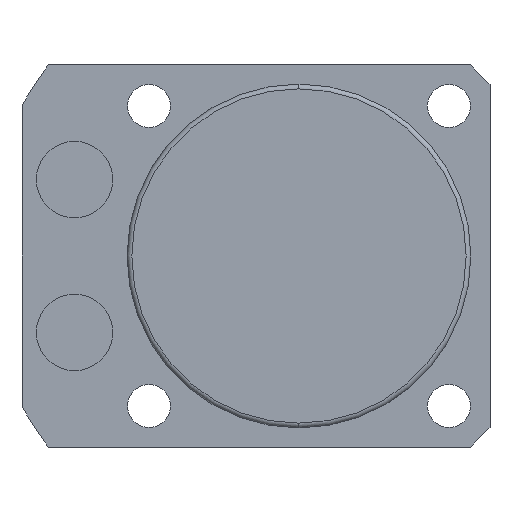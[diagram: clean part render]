
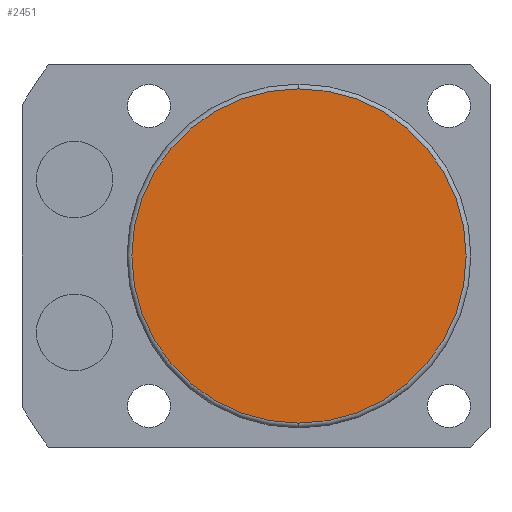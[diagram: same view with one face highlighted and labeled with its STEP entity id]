
A CAD part, front view. The second image highlights one B-rep face of the part: STEP entity #2451.
In plain terms, the highlighted planar face has unit normal (0, -1, 0).
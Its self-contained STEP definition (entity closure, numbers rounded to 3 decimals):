
#21 = ORIENTED_EDGE ( 'NONE', *, *, #2056, .T. ) ;
#158 = AXIS2_PLACEMENT_3D ( 'NONE', #1017, #2464, #371 ) ;
#368 = ORIENTED_EDGE ( 'NONE', *, *, #1902, .T. ) ;
#371 = DIRECTION ( 'NONE',  ( 0., 0., -1. ) ) ;
#615 = PLANE ( 'NONE',  #792 ) ;
#780 = VERTEX_POINT ( 'NONE', #1036 ) ;
#792 = AXIS2_PLACEMENT_3D ( 'NONE', #1417, #2250, #816 ) ;
#816 = DIRECTION ( 'NONE',  ( 0., 0., -1. ) ) ;
#1017 = CARTESIAN_POINT ( 'NONE',  ( 0., -135.5, 0. ) ) ;
#1036 = CARTESIAN_POINT ( 'NONE',  ( 0., -135.5, -17.5 ) ) ;
#1088 = DIRECTION ( 'NONE',  ( 0., 0., -1. ) ) ;
#1100 = AXIS2_PLACEMENT_3D ( 'NONE', #2533, #2330, #1088 ) ;
#1133 = CIRCLE ( 'NONE', #1100, 17.5 ) ;
#1229 = EDGE_LOOP ( 'NONE', ( #21, #368 ) ) ;
#1382 = CARTESIAN_POINT ( 'NONE',  ( 0., -135.5, 17.5 ) ) ;
#1417 = CARTESIAN_POINT ( 'NONE',  ( 0., -135.5, 0. ) ) ;
#1902 = EDGE_CURVE ( 'NONE', #2692, #780, #2500, .T. ) ;
#2056 = EDGE_CURVE ( 'NONE', #780, #2692, #1133, .T. ) ;
#2173 = FACE_OUTER_BOUND ( 'NONE', #1229, .T. ) ;
#2250 = DIRECTION ( 'NONE',  ( 0., -1., 0. ) ) ;
#2330 = DIRECTION ( 'NONE',  ( 0., -1., 0. ) ) ;
#2451 = ADVANCED_FACE ( 'NONE', ( #2173 ), #615, .T. ) ;
#2464 = DIRECTION ( 'NONE',  ( 0., -1., 0. ) ) ;
#2500 = CIRCLE ( 'NONE', #158, 17.5 ) ;
#2533 = CARTESIAN_POINT ( 'NONE',  ( 0., -135.5, 0. ) ) ;
#2692 = VERTEX_POINT ( 'NONE', #1382 ) ;
